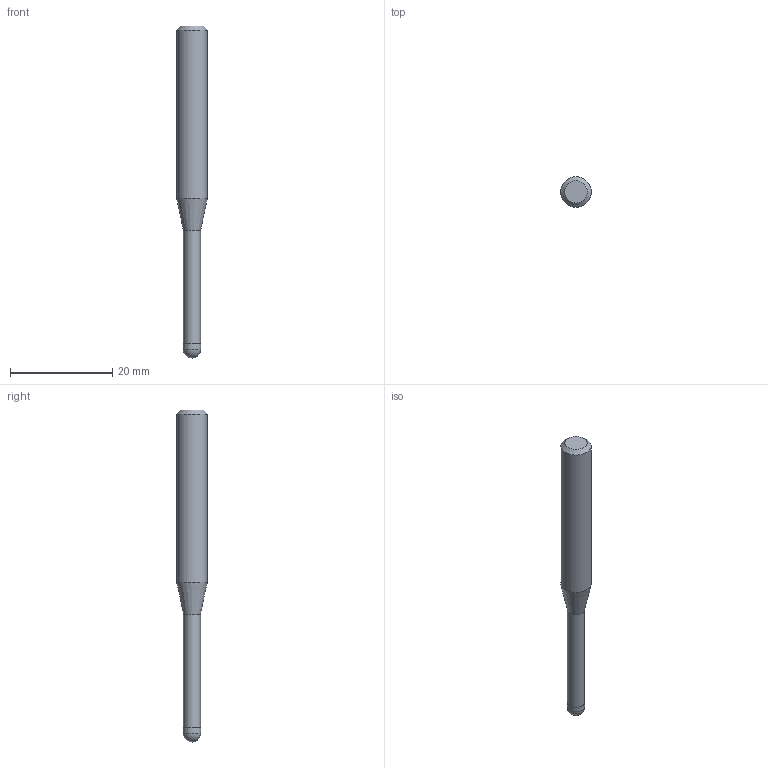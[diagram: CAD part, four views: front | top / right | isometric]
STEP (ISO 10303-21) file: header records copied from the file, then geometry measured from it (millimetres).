
FILE_DESCRIPTION((''),'2;1');
FILE_NAME('C:\Users\nsx150\AppData\Local\Temp\Mastercam 2021\ARV7HD45SN\TEMP.step','2023-06-13T16:38:46',(''),(''),'STEP Write','Mastercam 2021 ... CNC Software, Inc.','');
FILE_SCHEMA(('AUTOMOTIVE_DESIGN'));
Length unit declared in the file: millimetre
Products named in the file (1): None
Bounding box: 6 x 6 x 65 mm (x, y, z)
Volume: 1276.1 mm3; surface area: 1031.6 mm2
Topology: 2 solids, 2 shells, 9 faces, 14 edges, 8 vertices
Faces by surface type: plane 3, cylinder 3, cone 2, sphere 1
Full cylindrical faces by diameter (mm): 3.35 x1, 3.5 x1, 6 x1
Entity records: 211 total; most frequent: DIRECTION 36, CARTESIAN_POINT 25, AXIS2_PLACEMENT_3D 18, ORIENTED_EDGE 14, EDGE_LOOP 14, STYLED_ITEM 12, ADVANCED_FACE 9, FACE_BOUND 8
